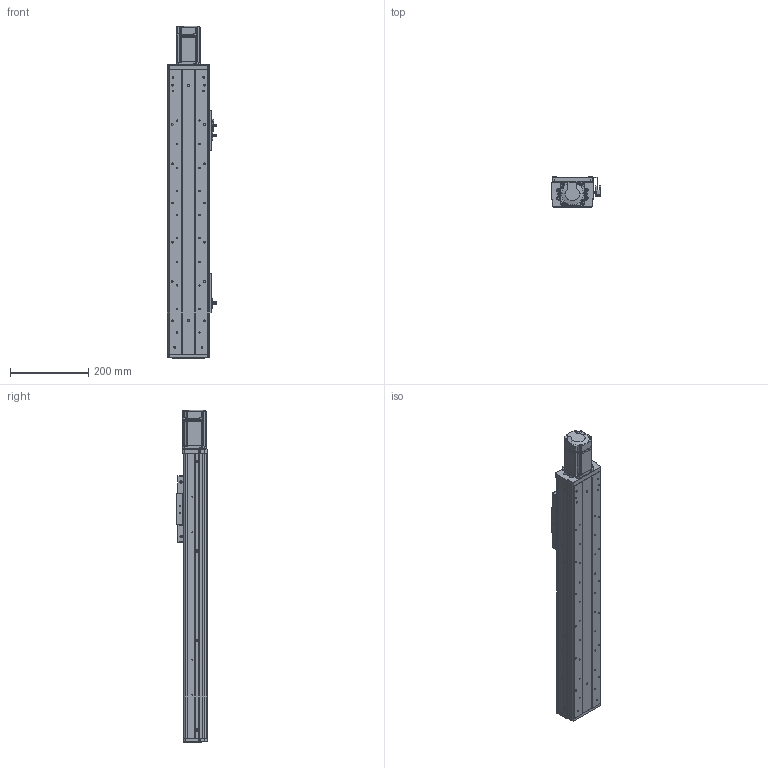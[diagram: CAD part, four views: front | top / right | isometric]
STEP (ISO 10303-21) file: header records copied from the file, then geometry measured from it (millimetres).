
FILE_DESCRIPTION (( 'STEP AP203' ), '1' );
FILE_NAME ('RY100FS-300-MK(15双轨).SLDASM_450.step', '2021-03-02T05:50:46', ( '盈信电脑' ), ( '东莞市道滘镇水果街19号' ), 'SwSTEP 2.0', 'SolidWorks 2012', '' );
FILE_SCHEMA (( 'CONFIG_CONTROL_DESIGN' ));
Products named in the file (20): 滅袉蝶14-35; RY100FS-300-MK(15邧寢).SLDASM_450; RY100FS-双轨螺母座(16丝杆）; RY100F-詩湍揤踡輸; 滅袉蝶14-24; RY100FS-15絳寢萇儂假蚾啣(200W PCD70 M4); RY100F-綴裔啣; RY80俋离覜茼え; 672嫖萇羲壽假蚾釱; 覜茼ん672; RY100F-詩湍揤踡謫; 1; 侂狟200W萇儂; RY100F-詩湍幗謫粣; RY100FS-双轨铝滑块(上板）; 棠沺沭; RY100F-滅鳥裔啣; RY100FS-300-MK15絳寢倰第菁釱_450; RY100FS-300-MK15絳寢倰第奻裔啣_450; RY100FS-300-MK15邧寢祥凄詩湍_450
Assembly tree (27 placements, depth 3):
  RY100FS-300-MK(15邧寢).SLDASM_450
    RY100FS-300-MK15絳寢倰第菁釱_450
    RY100FS-300-MK15絳寢倰第奻裔啣_450  x2
    RY100FS-300-MK15邧寢祥凄詩湍_450
    RY100FS-双轨铝滑块(上板）
    RY100F-滅鳥裔啣
    棠沺沭  x2
    RY100F-詩湍幗謫粣
    RY100F-詩湍揤踡謫  x2
    侂狟200W萇儂
      1
    RY100F-綴裔啣
    672嫖萇羲壽假蚾釱  x2
    RY80俋离覜茼え  x2
    覜茼ん672  x3
    RY100F-詩湍揤踡輸  x2
    RY100FS-15絳寢萇儂假蚾啣(200W PCD70 M4)
    RY100FS-双轨螺母座(16丝杆）
    滅袉蝶14-24
    滅袉蝶14-35
Bounding box: 126.2 x 78.5 x 846 mm (x, y, z)
Volume: 1958786.8 mm3; surface area: 773259.4 mm2
Topology: 26 solids, 26 shells, 1983 faces, 5388 edges, 3501 vertices
Faces by surface type: plane 964, cylinder 858, cone 136, bspline 25
Entity records: 55959 total; most frequent: CARTESIAN_POINT 11362, DIRECTION 8875, ORIENTED_EDGE 8756, EDGE_CURVE 4378, AXIS2_PLACEMENT_3D 3112, VERTEX_POINT 2881, VECTOR 2651, LINE 2651
